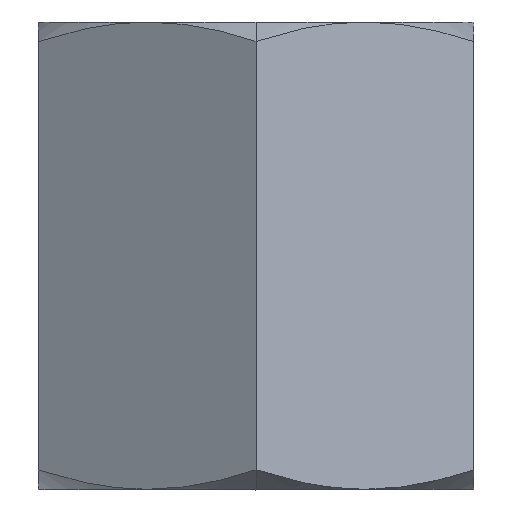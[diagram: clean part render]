
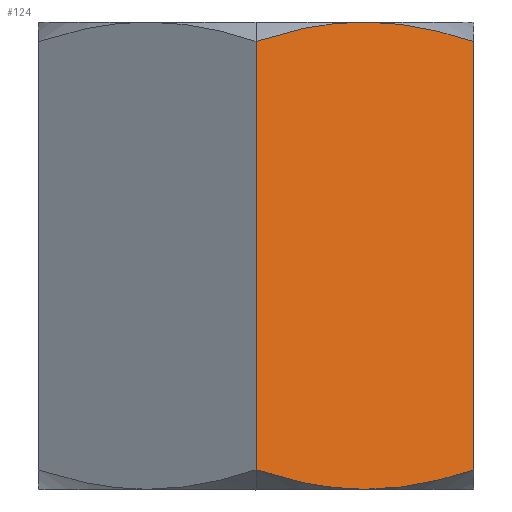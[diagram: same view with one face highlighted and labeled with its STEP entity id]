
A CAD part, top view. The second image highlights one B-rep face of the part: STEP entity #124.
In plain terms, the highlighted planar face has unit normal (0.5, 0, 0.866).
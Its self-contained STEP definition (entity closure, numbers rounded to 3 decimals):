
#23 = CARTESIAN_POINT ( 'NONE',  ( 5.6, 14.5, 12.355 ) ) ;
#40 = CARTESIAN_POINT ( 'NONE',  ( 4.464, -14.385, 13.011 ) ) ;
#65 = CARTESIAN_POINT ( 'NONE',  ( 7.898, -14.472, 11.028 ) ) ;
#77 = VERTEX_POINT ( 'NONE', #233 ) ;
#83 = CARTESIAN_POINT ( 'NONE',  ( 7.898, 14.472, 11.028 ) ) ;
#96 = DIRECTION ( 'NONE',  ( -0.866, 0., 0.5 ) ) ;
#122 = CARTESIAN_POINT ( 'NONE',  ( 4.464, 14.385, 13.011 ) ) ;
#124 = ADVANCED_FACE ( 'NONE', ( #483 ), #423, .F. ) ;
#149 = CARTESIAN_POINT ( 'NONE',  ( 2.216, -13.966, 14.309 ) ) ;
#157 = VERTEX_POINT ( 'NONE', #449 ) ;
#172 = CARTESIAN_POINT ( 'NONE',  ( 7.323, -14.5, 11.361 ) ) ;
#185 = DIRECTION ( 'NONE',  ( 0., -1., 0. ) ) ;
#187 = CARTESIAN_POINT ( 'NONE',  ( 7.323, 14.5, 11.361 ) ) ;
#197 = VERTEX_POINT ( 'NONE', #242 ) ;
#200 = DIRECTION ( 'NONE',  ( -0.5, 0., -0.866 ) ) ;
#205 = CARTESIAN_POINT ( 'NONE',  ( 0., -13.294, 15.588 ) ) ;
#211 = AXIS2_PLACEMENT_3D ( 'NONE', #316, #200, #96 ) ;
#233 = CARTESIAN_POINT ( 'NONE',  ( 13.5, 13.294, 7.794 ) ) ;
#234 = EDGE_CURVE ( 'NONE', #789, #197, #685, .T. ) ;
#237 = CARTESIAN_POINT ( 'NONE',  ( 2.216, 13.966, 14.309 ) ) ;
#238 = ORIENTED_EDGE ( 'NONE', *, *, #995, .F. ) ;
#241 = EDGE_CURVE ( 'NONE', #768, #591, #377, .T. ) ;
#242 = CARTESIAN_POINT ( 'NONE',  ( 6.75, -14.5, 11.691 ) ) ;
#246 = VECTOR ( 'NONE', #438, 1000. ) ;
#259 = CARTESIAN_POINT ( 'NONE',  ( 1.104, -13.662, 14.951 ) ) ;
#281 = CARTESIAN_POINT ( 'NONE',  ( 6.75, -14.5, 11.691 ) ) ;
#293 = ORIENTED_EDGE ( 'NONE', *, *, #788, .T. ) ;
#299 = CARTESIAN_POINT ( 'NONE',  ( 13.5, 14.5, 7.794 ) ) ;
#316 = CARTESIAN_POINT ( 'NONE',  ( 0., 14.5, 15.588 ) ) ;
#343 = CARTESIAN_POINT ( 'NONE',  ( 0., 13.294, 15.588 ) ) ;
#344 = CARTESIAN_POINT ( 'NONE',  ( 6.75, 14.5, 11.691 ) ) ;
#347 = CARTESIAN_POINT ( 'NONE',  ( 1.104, 13.662, 14.951 ) ) ;
#365 = CARTESIAN_POINT ( 'NONE',  ( 0., -13.294, 15.588 ) ) ;
#377 = B_SPLINE_CURVE_WITH_KNOTS ( 'NONE', 3,
 ( #749, #347, #237, #122, #23, #944 ),
 .UNSPECIFIED., .F., .F.,
 ( 4, 2, 4 ),
 ( 0., 0.004, 0.008 ),
 .UNSPECIFIED. ) ;
#387 = VECTOR ( 'NONE', #185, 1000. ) ;
#409 = LINE ( 'NONE', #299, #387 ) ;
#423 = PLANE ( 'NONE',  #211 ) ;
#426 = CARTESIAN_POINT ( 'NONE',  ( 13.5, -13.294, 7.794 ) ) ;
#438 = DIRECTION ( 'NONE',  ( 0., -1., 0. ) ) ;
#449 = CARTESIAN_POINT ( 'NONE',  ( 13.5, -13.294, 7.794 ) ) ;
#483 = FACE_OUTER_BOUND ( 'NONE', #716, .T. ) ;
#526 = CARTESIAN_POINT ( 'NONE',  ( 12.399, -13.661, 8.43 ) ) ;
#540 = CARTESIAN_POINT ( 'NONE',  ( 0., 14.5, 15.588 ) ) ;
#578 = CARTESIAN_POINT ( 'NONE',  ( 13.5, 13.294, 7.794 ) ) ;
#579 = ORIENTED_EDGE ( 'NONE', *, *, #234, .T. ) ;
#591 = VERTEX_POINT ( 'NONE', #344 ) ;
#627 = CARTESIAN_POINT ( 'NONE',  ( 11.288, -13.964, 9.071 ) ) ;
#643 = LINE ( 'NONE', #540, #246 ) ;
#675 = B_SPLINE_CURVE_WITH_KNOTS ( 'NONE', 3,
 ( #281, #172, #65, #985, #733, #627, #526, #426 ),
 .UNSPECIFIED., .F., .F.,
 ( 4, 2, 2, 4 ),
 ( 0.008, 0.01, 0.012, 0.016 ),
 .UNSPECIFIED. ) ;
#685 = B_SPLINE_CURVE_WITH_KNOTS ( 'NONE', 3,
 ( #365, #259, #149, #40, #966, #858 ),
 .UNSPECIFIED., .F., .F.,
 ( 4, 2, 4 ),
 ( 0., 0.004, 0.008 ),
 .UNSPECIFIED. ) ;
#688 = CARTESIAN_POINT ( 'NONE',  ( 12.399, 13.661, 8.43 ) ) ;
#716 = EDGE_LOOP ( 'NONE', ( #864, #579, #293, #906, #238, #754 ) ) ;
#717 = CARTESIAN_POINT ( 'NONE',  ( 6.75, 14.5, 11.691 ) ) ;
#733 = CARTESIAN_POINT ( 'NONE',  ( 9.602, -14.28, 10.045 ) ) ;
#749 = CARTESIAN_POINT ( 'NONE',  ( 0., 13.294, 15.588 ) ) ;
#754 = ORIENTED_EDGE ( 'NONE', *, *, #241, .F. ) ;
#768 = VERTEX_POINT ( 'NONE', #343 ) ;
#788 = EDGE_CURVE ( 'NONE', #197, #157, #675, .T. ) ;
#789 = VERTEX_POINT ( 'NONE', #205 ) ;
#791 = CARTESIAN_POINT ( 'NONE',  ( 11.288, 13.964, 9.071 ) ) ;
#858 = CARTESIAN_POINT ( 'NONE',  ( 6.75, -14.5, 11.691 ) ) ;
#864 = ORIENTED_EDGE ( 'NONE', *, *, #1023, .T. ) ;
#872 = EDGE_CURVE ( 'NONE', #77, #157, #409, .T. ) ;
#894 = CARTESIAN_POINT ( 'NONE',  ( 9.602, 14.28, 10.045 ) ) ;
#906 = ORIENTED_EDGE ( 'NONE', *, *, #872, .F. ) ;
#944 = CARTESIAN_POINT ( 'NONE',  ( 6.75, 14.5, 11.691 ) ) ;
#966 = CARTESIAN_POINT ( 'NONE',  ( 5.6, -14.5, 12.355 ) ) ;
#985 = CARTESIAN_POINT ( 'NONE',  ( 9.037, -14.361, 10.371 ) ) ;
#995 = EDGE_CURVE ( 'NONE', #591, #77, #1014, .T. ) ;
#1001 = CARTESIAN_POINT ( 'NONE',  ( 9.037, 14.361, 10.371 ) ) ;
#1014 = B_SPLINE_CURVE_WITH_KNOTS ( 'NONE', 3,
 ( #717, #187, #83, #1001, #894, #791, #688, #578 ),
 .UNSPECIFIED., .F., .F.,
 ( 4, 2, 2, 4 ),
 ( 0.008, 0.01, 0.012, 0.016 ),
 .UNSPECIFIED. ) ;
#1023 = EDGE_CURVE ( 'NONE', #768, #789, #643, .T. ) ;
